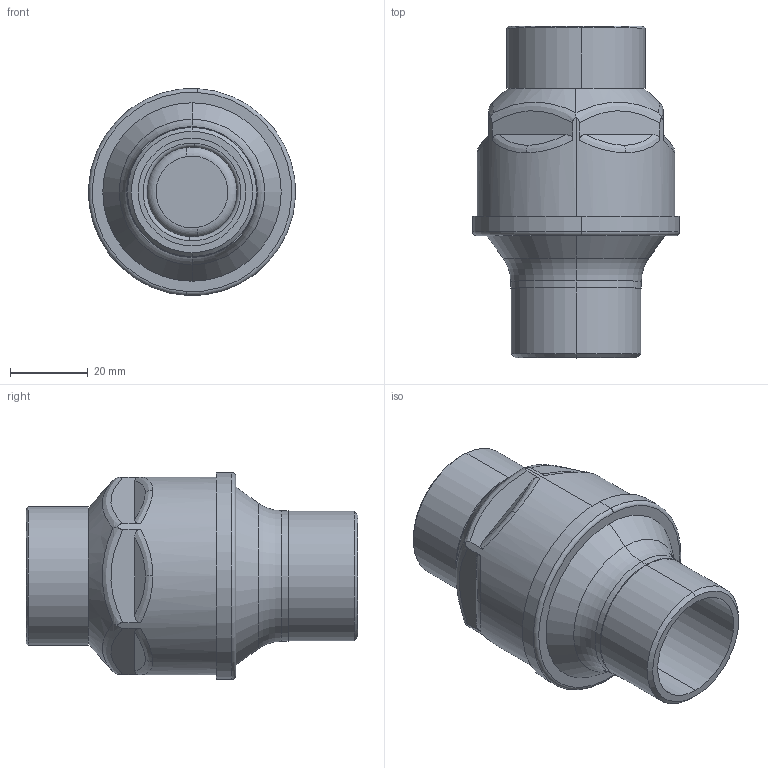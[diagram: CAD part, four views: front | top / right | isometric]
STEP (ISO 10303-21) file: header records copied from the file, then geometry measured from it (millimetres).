
FILE_DESCRIPTION (( 'STEP AP203' ), '1' );
FILE_NAME ('06F0701 cod. 900017 MF G1.STEP', '2018-10-03T14:24:42', ( '' ), ( '' ), 'SwSTEP 2.0', 'SolidWorks 2016', '' );
FILE_SCHEMA (( 'CONFIG_CONTROL_DESIGN' ));
Length unit declared in the file: millimetre
Products named in the file (1): 06F0701 cod. 900017 MF G1
Bounding box: 53.32 x 85.5 x 53.32 mm (x, y, z)
Volume: 27714.9 mm3; surface area: 38759.7 mm2
Topology: 9 solids, 9 shells, 286 faces, 696 edges, 444 vertices
Faces by surface type: cylinder 90, plane 82, torus 50, bspline 38, cone 26
Entity records: 14515 total; most frequent: CARTESIAN_POINT 7935, ORIENTED_EDGE 1392, DIRECTION 1350, EDGE_CURVE 696, AXIS2_PLACEMENT_3D 563, VERTEX_POINT 444, EDGE_LOOP 316, CIRCLE 314
